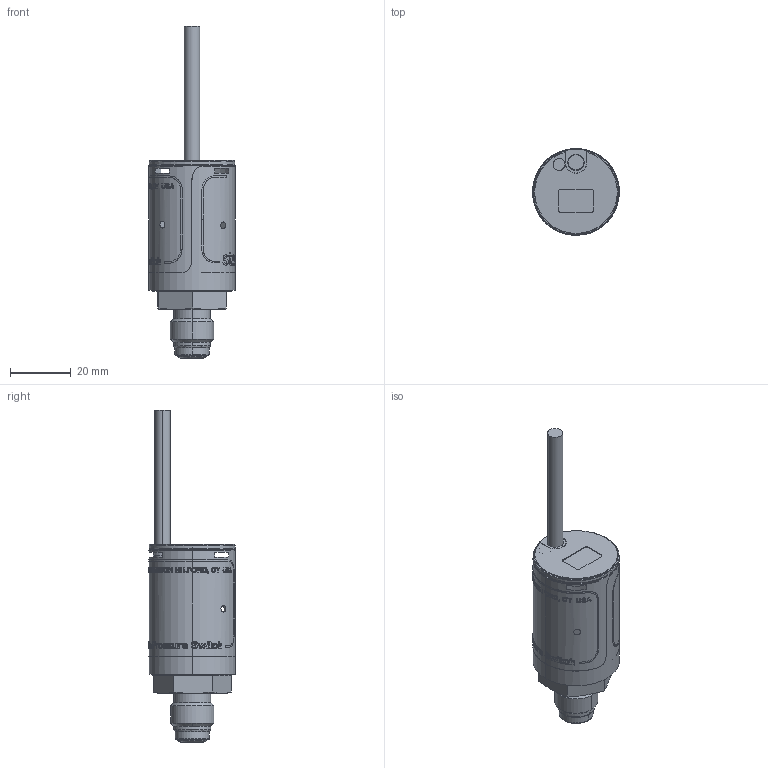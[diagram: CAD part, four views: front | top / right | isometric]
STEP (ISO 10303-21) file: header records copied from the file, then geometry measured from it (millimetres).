
FILE_DESCRIPTION (( 'STEP AP214' ), '1' );
FILE_NAME ('STASET GEN3 WEBSITE 8-30-2023.STEP', '2023-08-30T12:52:37', ( '' ), ( '' ), 'SwSTEP 2.0', 'SolidWorks 2012', '' );
FILE_SCHEMA (( 'AUTOMOTIVE_DESIGN' ));
Length unit declared in the file: inch
Products named in the file (1): STASET GEN3 WEBSITE 8-30-2023
Bounding box: 28.65 x 28.6 x 109.73 mm (x, y, z)
Surface area: 9387.1 mm2 (no closed solid volume)
Topology: 0 solids, 85 shells, 505 faces, 1573 edges, 1239 vertices
Faces by surface type: bspline 376, plane 83, cylinder 33, cone 13
Entity records: 41636 total; most frequent: CARTESIAN_POINT 25439, ORIENTED_EDGE 3008, EDGE_CURVE 1573, VERTEX_POINT 1239, B_SPLINE_CURVE_WITH_KNOTS 1230, DIRECTION 724, EDGE_LOOP 539, UNCERTAINTY_MEASURE_WITH_UNIT 436
